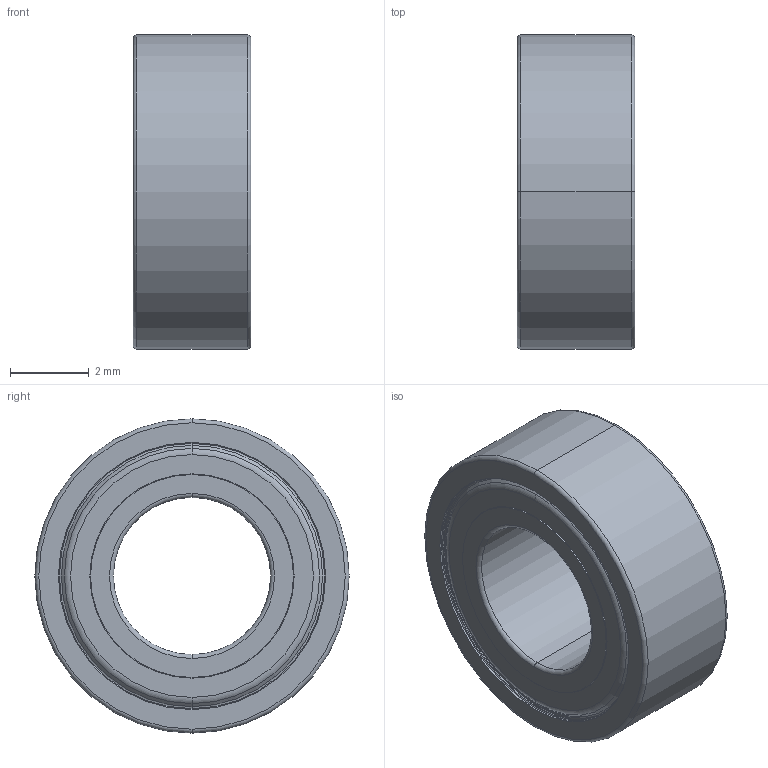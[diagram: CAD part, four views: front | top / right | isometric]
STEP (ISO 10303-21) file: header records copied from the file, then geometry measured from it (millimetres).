
FILE_DESCRIPTION((''),'2;1');
FILE_NAME('MR84ZZ-EA010','2025-12-19T16:50:35',('qinghui.yi'),(''),'CREO PARAMETRIC BY PTC INC, 2019164','CREO PARAMETRIC BY PTC INC, 2019164','');
FILE_SCHEMA(('CONFIG_CONTROL_DESIGN','SHAPE_APPEARANCE_LAYERS_GROUPS'));
Length unit declared in the file: millimetre
Products named in the file (1): MR84ZZ-EA010
Bounding box: 3 x 8 x 8 mm (x, y, z)
Volume: 70.8 mm3; surface area: 342 mm2
Topology: 2 solids, 2 shells, 88 faces, 180 edges, 106 vertices
Faces by surface type: torus 34, cylinder 24, cone 16, plane 14
Entity records: 2595 total; most frequent: DIRECTION 496, CARTESIAN_POINT 374, ORIENTED_EDGE 360, AXIS2_PLACEMENT_3D 228, COLOUR_RGB 196, EDGE_CURVE 180, CIRCLE 140, VERTEX_POINT 106
